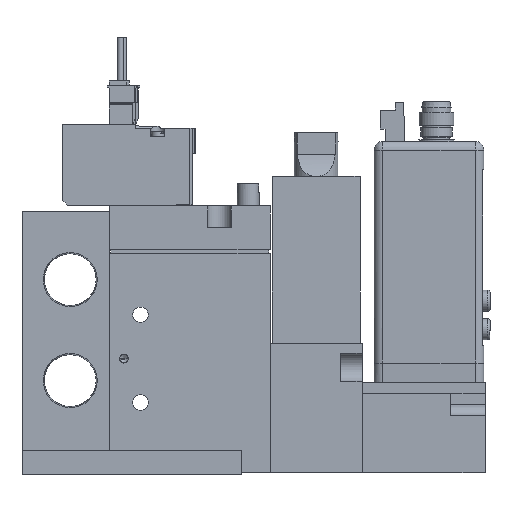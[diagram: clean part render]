
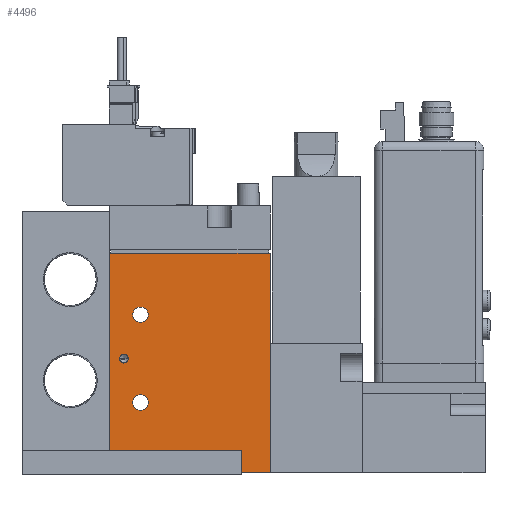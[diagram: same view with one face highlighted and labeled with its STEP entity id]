
A CAD part, left-side view. The second image highlights one B-rep face of the part: STEP entity #4496.
In plain terms, the highlighted planar face has unit normal (-1, 0, 0) as drawn and (1, 0, 0) by its records, which use the part's own axes.
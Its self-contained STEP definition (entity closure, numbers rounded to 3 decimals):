
#4496=ADVANCED_FACE('',(#9486,#9487,#9488,#9489),#9490,.F.);
#9486=FACE_BOUND('',#16653,.T.);
#9487=FACE_BOUND('',#16654,.T.);
#9488=FACE_BOUND('',#16655,.T.);
#9489=FACE_OUTER_BOUND('',#16656,.T.);
#9490=PLANE('',#16657);
#16653=EDGE_LOOP('',(#31585));
#16654=EDGE_LOOP('',(#31586));
#16655=EDGE_LOOP('',(#31587));
#16656=EDGE_LOOP('',(#31588,#31589,#31590,#31591));
#16657=AXIS2_PLACEMENT_3D('',#31592,#31593,#31594);
#31585=ORIENTED_EDGE('',*,*,#48804,.F.);
#31586=ORIENTED_EDGE('',*,*,#48805,.T.);
#31587=ORIENTED_EDGE('',*,*,#48798,.T.);
#31588=ORIENTED_EDGE('',*,*,#48783,.T.);
#31589=ORIENTED_EDGE('',*,*,#48790,.F.);
#31590=ORIENTED_EDGE('',*,*,#48787,.F.);
#31591=ORIENTED_EDGE('',*,*,#48801,.T.);
#31592=CARTESIAN_POINT('',(8.5,-19.444,50.0));
#31593=DIRECTION('',(-1.0,0.0,0.0));
#31594=DIRECTION('',(0.0,0.0,1.0));
#48783=EDGE_CURVE('',#58891,#58889,#58892,.T.);
#48787=EDGE_CURVE('',#58897,#58899,#58900,.T.);
#48790=EDGE_CURVE('',#58899,#58889,#58903,.T.);
#48798=EDGE_CURVE('',#58915,#58915,#58916,.T.);
#48801=EDGE_CURVE('',#58897,#58891,#58921,.T.);
#48804=EDGE_CURVE('',#58924,#58924,#58925,.T.);
#48805=EDGE_CURVE('',#58926,#58926,#58927,.T.);
#58889=VERTEX_POINT('',#74976);
#58891=VERTEX_POINT('',#74979);
#58892=LINE('',#74980,#74981);
#58897=VERTEX_POINT('',#74988);
#58899=VERTEX_POINT('',#74991);
#58900=LINE('',#74992,#74993);
#58903=LINE('',#74998,#74999);
#58915=VERTEX_POINT('',#75012);
#58916=CIRCLE('',#75013,1.75);
#58921=LINE('',#75018,#75019);
#58924=VERTEX_POINT('',#75022);
#58925=CIRCLE('',#75023,1.0);
#58926=VERTEX_POINT('',#75024);
#58927=CIRCLE('',#75025,1.75);
#74976=CARTESIAN_POINT('',(8.5,17.056,0.0));
#74979=CARTESIAN_POINT('',(8.5,-19.444,0.0));
#74980=CARTESIAN_POINT('',(8.5,-19.444,0.0));
#74981=VECTOR('',#90398,1.0);
#74988=CARTESIAN_POINT('',(8.5,-19.444,50.0));
#74991=CARTESIAN_POINT('',(8.5,17.056,50.0));
#74992=CARTESIAN_POINT('',(8.5,-19.444,50.0));
#74993=VECTOR('',#90402,1.0);
#74998=CARTESIAN_POINT('',(8.5,17.056,50.0));
#74999=VECTOR('',#90405,1.0);
#75012=CARTESIAN_POINT('',(8.5,-10.694,16.0));
#75013=AXIS2_PLACEMENT_3D('',#90422,#90423,#90424);
#75018=CARTESIAN_POINT('',(8.5,-19.444,50.0));
#75019=VECTOR('',#90431,1.0);
#75022=CARTESIAN_POINT('',(8.5,-17.244,26.0));
#75023=AXIS2_PLACEMENT_3D('',#90435,#90436,#90437);
#75024=CARTESIAN_POINT('',(8.5,-10.694,36.0));
#75025=AXIS2_PLACEMENT_3D('',#90438,#90439,#90440);
#90398=DIRECTION('',(0.0,1.0,0.0));
#90402=DIRECTION('',(0.0,1.0,0.0));
#90405=DIRECTION('',(0.0,0.0,-1.0));
#90422=CARTESIAN_POINT('',(8.5,-12.444,16.0));
#90423=DIRECTION('',(-1.0,0.0,0.0));
#90424=DIRECTION('',(0.0,1.0,0.0));
#90431=DIRECTION('',(0.0,0.0,-1.0));
#90435=CARTESIAN_POINT('',(8.5,-16.244,26.0));
#90436=DIRECTION('',(1.0,0.,0.0));
#90437=DIRECTION('',(0.,-1.0,0.0));
#90438=CARTESIAN_POINT('',(8.5,-12.444,36.0));
#90439=DIRECTION('',(-1.0,0.0,0.0));
#90440=DIRECTION('',(0.0,1.0,0.0));
